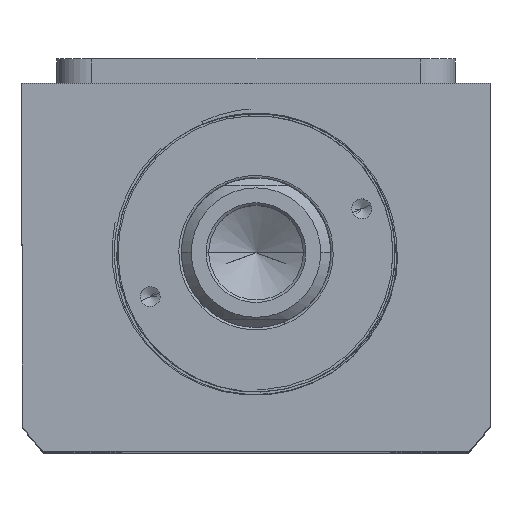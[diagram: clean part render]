
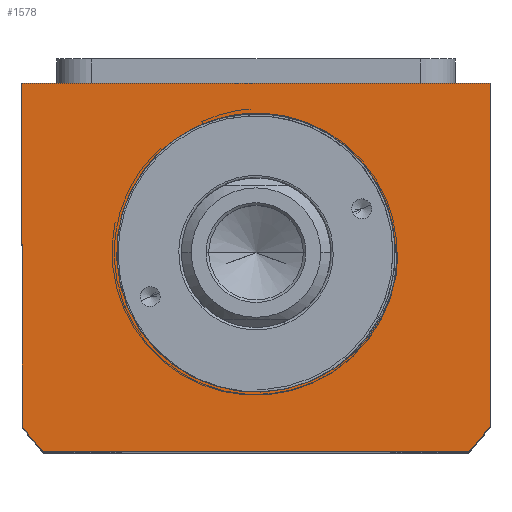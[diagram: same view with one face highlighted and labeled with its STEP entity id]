
A CAD part, top view. The second image highlights one B-rep face of the part: STEP entity #1578.
In plain terms, the highlighted planar face has unit normal (0, 0, 1).
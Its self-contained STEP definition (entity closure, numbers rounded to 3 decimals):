
#109 = CARTESIAN_POINT ( 'NONE',  ( 22.571, -17.007, 72.5 ) ) ;
#146 = CARTESIAN_POINT ( 'NONE',  ( 28.449, -1.419, 72.5 ) ) ;
#276 = ORIENTED_EDGE ( 'NONE', *, *, #7588, .T. ) ;
#430 = VERTEX_POINT ( 'NONE', #2286 ) ;
#866 = EDGE_CURVE ( 'NONE', #6603, #5080, #3846, .T. ) ;
#904 = EDGE_CURVE ( 'NONE', #5346, #7890, #10900, .T. ) ;
#942 = CARTESIAN_POINT ( 'NONE',  ( 16.467, -22.819, 72.5 ) ) ;
#1244 = VERTEX_POINT ( 'NONE', #2111 ) ;
#1418 = CARTESIAN_POINT ( 'NONE',  ( 0., 0., 72.5 ) ) ;
#1445 = LINE ( 'NONE', #9307, #10602 ) ;
#1561 = ORIENTED_EDGE ( 'NONE', *, *, #7445, .T. ) ;
#1578 = ADVANCED_FACE ( 'NONE', ( #6150, #3773 ), #7483, .T. ) ;
#1782 = CARTESIAN_POINT ( 'NONE',  ( 0., 0., 72.5 ) ) ;
#1879 = EDGE_LOOP ( 'NONE', ( #3253, #6378, #276 ) ) ;
#1896 = CARTESIAN_POINT ( 'NONE',  ( 27.555, -6.99, 72.5 ) ) ;
#1928 = CARTESIAN_POINT ( 'NONE',  ( 28.495, 0., 72.5 ) ) ;
#1938 = CARTESIAN_POINT ( 'NONE',  ( 47., 34., 72.5 ) ) ;
#2111 = CARTESIAN_POINT ( 'NONE',  ( 47., -34.832, 72.5 ) ) ;
#2286 = CARTESIAN_POINT ( 'NONE',  ( -42.688, -40., 72.5 ) ) ;
#2639 = AXIS2_PLACEMENT_3D ( 'NONE', #3054, #5742, #6654 ) ;
#2735 = DIRECTION ( 'NONE',  ( 0., 0., -1. ) ) ;
#2757 = CARTESIAN_POINT ( 'NONE',  ( 26.163, -10.961, 72.5 ) ) ;
#2860 = VECTOR ( 'NONE', #8104, 1000. ) ;
#2997 = VERTEX_POINT ( 'NONE', #6160 ) ;
#3021 = CARTESIAN_POINT ( 'NONE',  ( 13.459, -24.624, 72.5 ) ) ;
#3054 = CARTESIAN_POINT ( 'NONE',  ( 0., 0., 72.5 ) ) ;
#3056 = CARTESIAN_POINT ( 'NONE',  ( -47., 34., 72.5 ) ) ;
#3168 = CIRCLE ( 'NONE', #5285, 58.5 ) ;
#3207 = VECTOR ( 'NONE', #10208, 1000. ) ;
#3253 = ORIENTED_EDGE ( 'NONE', *, *, #11321, .F. ) ;
#3317 = CARTESIAN_POINT ( 'NONE',  ( -47., 34., 72.5 ) ) ;
#3428 = DIRECTION ( 'NONE',  ( 0., 0., 1. ) ) ;
#3523 = DIRECTION ( 'NONE',  ( 0., 0., 1. ) ) ;
#3772 = CARTESIAN_POINT ( 'NONE',  ( 18.667, -21.077, 72.5 ) ) ;
#3773 = FACE_OUTER_BOUND ( 'NONE', #10437, .T. ) ;
#3818 = ORIENTED_EDGE ( 'NONE', *, *, #7574, .T. ) ;
#3846 = B_SPLINE_CURVE_WITH_KNOTS ( 'NONE', 3,
 ( #1928, #9883, #146, #6465, #8126, #7306, #1896, #10867, #2757, #4642, #5531, #109, #6350, #8240, #9131, #3772, #4676, #942, #4790, #3021, #11089, #7421, #9209, #5675 ),
 .UNSPECIFIED., .F., .F.,
 ( 4, 2, 2, 2, 2, 2, 2, 2, 2, 2, 2, 4 ),
 ( 0., 0.002, 0.004, 0.009, 0.013, 0.017, 0.021, 0.023, 0.026, 0.03, 0.032, 0.034 ),
 .UNSPECIFIED. ) ;
#4105 = LINE ( 'NONE', #1938, #9288 ) ;
#4154 = EDGE_CURVE ( 'NONE', #10767, #1244, #3168, .T. ) ;
#4551 = ORIENTED_EDGE ( 'NONE', *, *, #4154, .T. ) ;
#4618 = CARTESIAN_POINT ( 'NONE',  ( -47., -34.832, 72.5 ) ) ;
#4642 = CARTESIAN_POINT ( 'NONE',  ( 24.898, -13.504, 72.5 ) ) ;
#4674 = DIRECTION ( 'NONE',  ( 1., 0., 0. ) ) ;
#4676 = CARTESIAN_POINT ( 'NONE',  ( 18.129, -21.529, 72.5 ) ) ;
#4790 = CARTESIAN_POINT ( 'NONE',  ( 15.3, -23.593, 72.5 ) ) ;
#4831 = AXIS2_PLACEMENT_3D ( 'NONE', #9475, #3428, #4674 ) ;
#4888 = CARTESIAN_POINT ( 'NONE',  ( 28., 0., 72.5 ) ) ;
#5080 = VERTEX_POINT ( 'NONE', #6780 ) ;
#5236 = LINE ( 'NONE', #4618, #2860 ) ;
#5285 = AXIS2_PLACEMENT_3D ( 'NONE', #1782, #3523, #8056 ) ;
#5346 = VERTEX_POINT ( 'NONE', #5821 ) ;
#5531 = CARTESIAN_POINT ( 'NONE',  ( 24.178, -14.712, 72.5 ) ) ;
#5675 = CARTESIAN_POINT ( 'NONE',  ( 10.232, -26.064, 72.5 ) ) ;
#5742 = DIRECTION ( 'NONE',  ( 0., 0., 1. ) ) ;
#5821 = CARTESIAN_POINT ( 'NONE',  ( 47., 34., 72.5 ) ) ;
#5895 = DIRECTION ( 'NONE',  ( -1., 0., 0. ) ) ;
#6103 = ORIENTED_EDGE ( 'NONE', *, *, #904, .T. ) ;
#6150 = FACE_BOUND ( 'NONE', #1879, .T. ) ;
#6160 = CARTESIAN_POINT ( 'NONE',  ( -47., -34.832, 72.5 ) ) ;
#6350 = CARTESIAN_POINT ( 'NONE',  ( 21.684, -18.094, 72.5 ) ) ;
#6378 = ORIENTED_EDGE ( 'NONE', *, *, #866, .T. ) ;
#6465 = CARTESIAN_POINT ( 'NONE',  ( 28.323, -2.832, 72.5 ) ) ;
#6603 = VERTEX_POINT ( 'NONE', #10976 ) ;
#6654 = DIRECTION ( 'NONE',  ( 1., 0., 0. ) ) ;
#6711 = ORIENTED_EDGE ( 'NONE', *, *, #11116, .T. ) ;
#6780 = CARTESIAN_POINT ( 'NONE',  ( 10.232, -26.064, 72.5 ) ) ;
#7228 = EDGE_CURVE ( 'NONE', #1244, #5346, #4105, .T. ) ;
#7306 = CARTESIAN_POINT ( 'NONE',  ( 27.887, -5.628, 72.5 ) ) ;
#7414 = CARTESIAN_POINT ( 'NONE',  ( 42.688, -40., 72.5 ) ) ;
#7421 = CARTESIAN_POINT ( 'NONE',  ( 11.542, -25.544, 72.5 ) ) ;
#7445 = EDGE_CURVE ( 'NONE', #2997, #430, #7480, .T. ) ;
#7480 = CIRCLE ( 'NONE', #4831, 58.5 ) ;
#7483 = PLANE ( 'NONE',  #2639 ) ;
#7574 = EDGE_CURVE ( 'NONE', #7890, #2997, #5236, .T. ) ;
#7588 = EDGE_CURVE ( 'NONE', #5080, #8422, #11086, .T. ) ;
#7890 = VERTEX_POINT ( 'NONE', #3317 ) ;
#8056 = DIRECTION ( 'NONE',  ( 1., 0., 0. ) ) ;
#8068 = CARTESIAN_POINT ( 'NONE',  ( 0., 0., 72.5 ) ) ;
#8104 = DIRECTION ( 'NONE',  ( 0., -1., 0. ) ) ;
#8126 = CARTESIAN_POINT ( 'NONE',  ( 28.233, -3.538, 72.5 ) ) ;
#8214 = DIRECTION ( 'NONE',  ( 1., 0., 0. ) ) ;
#8240 = CARTESIAN_POINT ( 'NONE',  ( 20.224, -19.631, 72.5 ) ) ;
#8248 = DIRECTION ( 'NONE',  ( 0., 1., 0. ) ) ;
#8422 = VERTEX_POINT ( 'NONE', #4888 ) ;
#8423 = AXIS2_PLACEMENT_3D ( 'NONE', #8068, #2735, #8214 ) ;
#9131 = CARTESIAN_POINT ( 'NONE',  ( 19.714, -20.129, 72.5 ) ) ;
#9209 = CARTESIAN_POINT ( 'NONE',  ( 10.89, -25.816, 72.5 ) ) ;
#9288 = VECTOR ( 'NONE', #8248, 1000. ) ;
#9307 = CARTESIAN_POINT ( 'NONE',  ( 42.688, -40., 72.5 ) ) ;
#9422 = DIRECTION ( 'NONE',  ( 1., 0., 0. ) ) ;
#9475 = CARTESIAN_POINT ( 'NONE',  ( 0., 0., 72.5 ) ) ;
#9883 = CARTESIAN_POINT ( 'NONE',  ( 28.485, -0.71, 72.5 ) ) ;
#10188 = VECTOR ( 'NONE', #5895, 1000. ) ;
#10208 = DIRECTION ( 'NONE',  ( -1., 0., 0. ) ) ;
#10437 = EDGE_LOOP ( 'NONE', ( #6103, #3818, #1561, #6711, #4551, #11163 ) ) ;
#10602 = VECTOR ( 'NONE', #9422, 1000. ) ;
#10767 = VERTEX_POINT ( 'NONE', #7414 ) ;
#10867 = CARTESIAN_POINT ( 'NONE',  ( 26.694, -9.657, 72.5 ) ) ;
#10869 = LINE ( 'NONE', #1418, #10188 ) ;
#10900 = LINE ( 'NONE', #3056, #3207 ) ;
#10976 = CARTESIAN_POINT ( 'NONE',  ( 28.495, 0., 72.5 ) ) ;
#11086 = CIRCLE ( 'NONE', #8423, 28. ) ;
#11089 = CARTESIAN_POINT ( 'NONE',  ( 12.831, -24.945, 72.5 ) ) ;
#11116 = EDGE_CURVE ( 'NONE', #430, #10767, #1445, .T. ) ;
#11163 = ORIENTED_EDGE ( 'NONE', *, *, #7228, .T. ) ;
#11321 = EDGE_CURVE ( 'NONE', #6603, #8422, #10869, .T. ) ;
